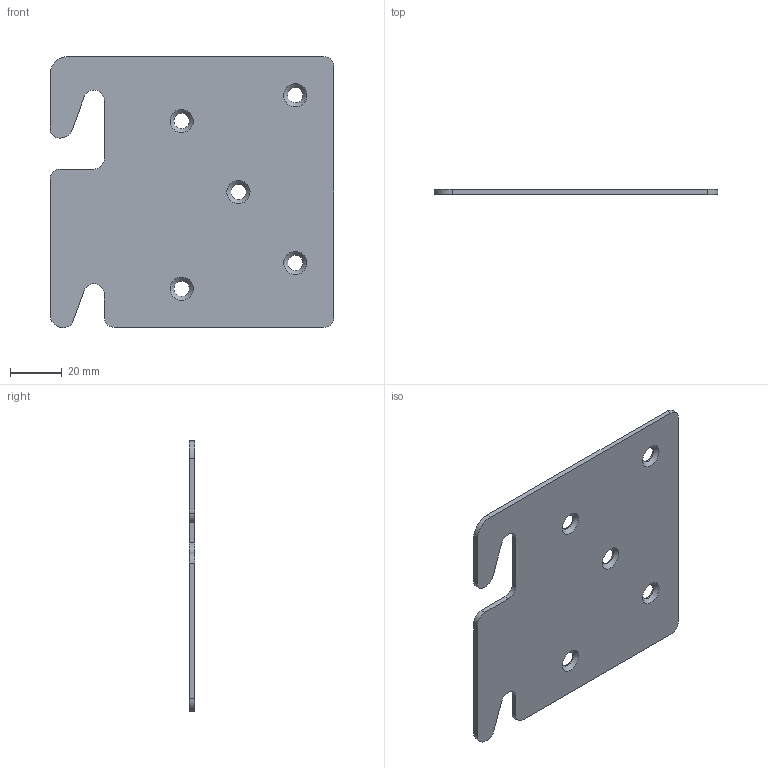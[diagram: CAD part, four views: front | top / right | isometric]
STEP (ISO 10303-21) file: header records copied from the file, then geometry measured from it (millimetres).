
FILE_DESCRIPTION(/* description */ ('ベッド金具F'),/* implementation_level */ '2;1');
FILE_NAME(/* name */ 'E301-A02.step',/* time_stamp */ '2026-04-08T10:54:57+09:00',/* author */ (''),/* organization */ (''),/* preprocessor_version */ 'ST-DEVELOPER v20.1',/* originating_system */ 'Autodesk Translation Framework v14.24.0.0',/* authorisation */ '');
FILE_SCHEMA (('AUTOMOTIVE_DESIGN { 1 0 10303 214 3 1 1 }'));
Length unit declared in the file: millimetre
Products named in the file (1): 2026-04-07-13-02-35-959
Bounding box: 110 x 2 x 105 mm (x, y, z)
Volume: 21429.4 mm3; surface area: 22695.2 mm2
Topology: 1 solids, 1 shells, 36 faces, 97 edges, 63 vertices
Faces by surface type: cylinder 17, plane 14, cone 5
Full cylindrical faces by diameter (mm): 6 x5
Entity records: 1301 total; most frequent: DIRECTION 210, CARTESIAN_POINT 197, ORIENTED_EDGE 194, EDGE_CURVE 97, AXIS2_PLACEMENT_3D 76, VERTEX_POINT 63, LINE 58, VECTOR 58
